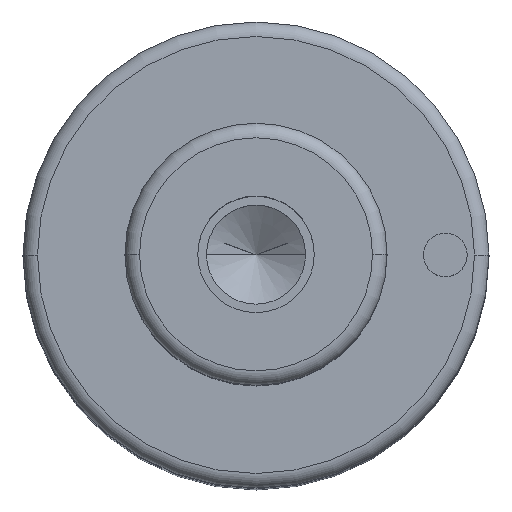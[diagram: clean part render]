
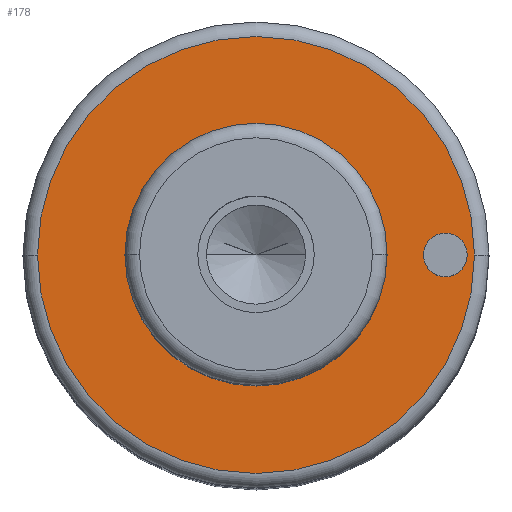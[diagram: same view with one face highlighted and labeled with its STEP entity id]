
A CAD part, top view. The second image highlights one B-rep face of the part: STEP entity #178.
In plain terms, the highlighted planar face has unit normal (0, 0, 1).
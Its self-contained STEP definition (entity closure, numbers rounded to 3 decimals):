
#105=PLANE('',#866);
#115=FACE_BOUND('',#283,.T.);
#116=FACE_BOUND('',#284,.T.);
#117=FACE_BOUND('',#285,.T.);
#178=ADVANCED_FACE('',(#115,#116,#117),#105,.T.);
#283=EDGE_LOOP('',(#473,#474));
#284=EDGE_LOOP('',(#475,#476));
#285=EDGE_LOOP('',(#477,#478));
#333=CIRCLE('',#834,9.);
#334=CIRCLE('',#836,9.);
#338=CIRCLE('',#841,15.);
#339=CIRCLE('',#843,15.);
#351=CIRCLE('',#864,1.5);
#352=CIRCLE('',#865,1.5);
#473=ORIENTED_EDGE('',*,*,#666,.F.);
#474=ORIENTED_EDGE('',*,*,#667,.F.);
#475=ORIENTED_EDGE('',*,*,#685,.F.);
#476=ORIENTED_EDGE('',*,*,#686,.F.);
#477=ORIENTED_EDGE('',*,*,#662,.T.);
#478=ORIENTED_EDGE('',*,*,#660,.T.);
#590=VERTEX_POINT('',#1233);
#591=VERTEX_POINT('',#1235);
#592=VERTEX_POINT('',#1241);
#595=VERTEX_POINT('',#1246);
#604=VERTEX_POINT('',#1285);
#605=VERTEX_POINT('',#1286);
#660=EDGE_CURVE('',#591,#590,#333,.T.);
#662=EDGE_CURVE('',#590,#591,#334,.T.);
#666=EDGE_CURVE('',#595,#592,#338,.T.);
#667=EDGE_CURVE('',#592,#595,#339,.T.);
#685=EDGE_CURVE('',#604,#605,#351,.T.);
#686=EDGE_CURVE('',#605,#604,#352,.T.);
#834=AXIS2_PLACEMENT_3D('',#1234,#985,#986);
#836=AXIS2_PLACEMENT_3D('',#1238,#990,#991);
#841=AXIS2_PLACEMENT_3D('',#1247,#1000,#1001);
#843=AXIS2_PLACEMENT_3D('',#1249,#1004,#1005);
#864=AXIS2_PLACEMENT_3D('',#1284,#1052,#1053);
#865=AXIS2_PLACEMENT_3D('',#1287,#1054,#1055);
#866=AXIS2_PLACEMENT_3D('',#1288,#1056,#1057);
#985=DIRECTION('',(0.,0.,-1.));
#986=DIRECTION('',(0.,1.,0.));
#990=DIRECTION('',(0.,0.,-1.));
#991=DIRECTION('',(0.,-1.,0.));
#1000=DIRECTION('',(0.,0.,-1.));
#1001=DIRECTION('',(0.,1.,0.));
#1004=DIRECTION('',(0.,0.,-1.));
#1005=DIRECTION('',(0.,-1.,0.));
#1052=DIRECTION('',(0.,0.,1.));
#1053=DIRECTION('',(0.,1.,0.));
#1054=DIRECTION('',(0.,0.,1.));
#1055=DIRECTION('',(0.,-1.,0.));
#1056=DIRECTION('',(0.,0.,1.));
#1057=DIRECTION('',(0.,-1.,0.));
#1233=CARTESIAN_POINT('',(-9.,0.,78.));
#1234=CARTESIAN_POINT('',(0.,0.,78.));
#1235=CARTESIAN_POINT('',(9.,0.,78.));
#1238=CARTESIAN_POINT('',(0.,0.,78.));
#1241=CARTESIAN_POINT('',(-15.,0.,78.));
#1246=CARTESIAN_POINT('',(15.,0.,78.));
#1247=CARTESIAN_POINT('',(0.,0.,78.));
#1249=CARTESIAN_POINT('',(0.,0.,78.));
#1284=CARTESIAN_POINT('',(13.,0.,78.));
#1285=CARTESIAN_POINT('',(11.5,0.,78.));
#1286=CARTESIAN_POINT('',(14.5,0.,78.));
#1287=CARTESIAN_POINT('',(13.,0.,78.));
#1288=CARTESIAN_POINT('',(0.,0.,78.));
